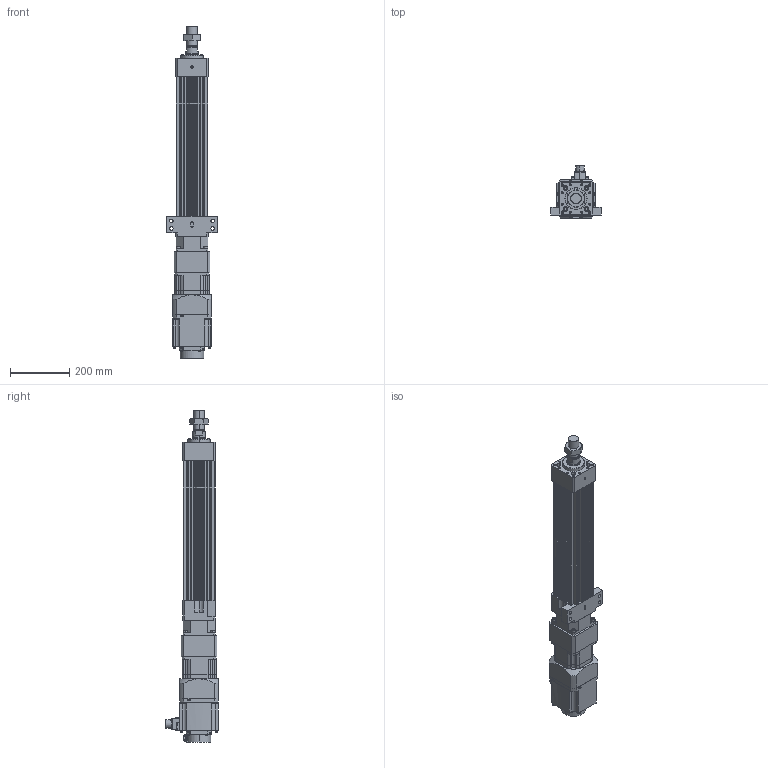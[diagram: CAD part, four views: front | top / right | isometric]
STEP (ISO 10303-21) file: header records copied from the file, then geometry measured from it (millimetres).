
FILE_DESCRIPTION (( 'STEP AP203' ), '1' );
FILE_NAME ('HES110NS(HS)-S300-W015G00-M-FFC.STEP', '2023-01-28T04:53:24', ( 'tms' ), ( '' ), 'SwSTEP 2.0', 'SolidWorks 2013', '' );
FILE_SCHEMA (( 'CONFIG_CONTROL_DESIGN' ));
Length unit declared in the file: millimetre
Products named in the file (8): HES110 ROD M ST300; M36X1.5P; HES110-S300-G120-FFC; P0401400706; AB1151; HES110NS(HS)-S300-W015G00-M-FFC; HG-SR152; AB115-003[HG-SR152]
Assembly tree (7 placements, depth 3):
  HES110NS(HS)-S300-W015G00-M-FFC
    HES110-S300-G120-FFC
    HES110 ROD M ST300
    M36X1.5P
    AB115-003[HG-SR152]
      AB1151
      P0401400706
    HG-SR152
Bounding box: 170 x 177.49 x 1121.5 mm (x, y, z)
Volume: 7235028.8 mm3; surface area: 995529 mm2
Topology: 4 solids, 15 shells, 1222 faces, 3083 edges, 1988 vertices
Faces by surface type: plane 557, cylinder 549, cone 104, bspline 8, torus 4
Entity records: 38313 total; most frequent: CARTESIAN_POINT 7246, DIRECTION 6648, ORIENTED_EDGE 6070, EDGE_CURVE 3045, AXIS2_PLACEMENT_3D 2450, VERTEX_POINT 1988, VECTOR 1748, LINE 1748
